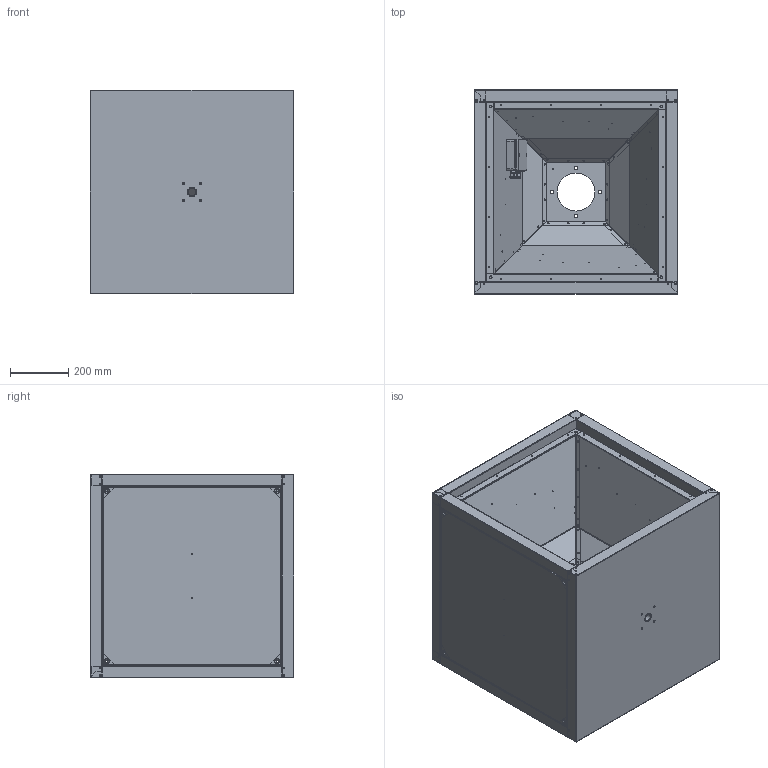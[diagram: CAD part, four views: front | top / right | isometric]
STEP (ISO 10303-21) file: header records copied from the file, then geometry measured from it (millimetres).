
FILE_DESCRIPTION (( 'STEP AP203' ), '1' );
FILE_NAME ('149327-00_MPC400ECT30_step.step', '2018-10-24T11:54:53', ( '' ), ( '' ), 'SwSTEP 2.0', 'SolidWorks 2017', '' );
FILE_SCHEMA (( 'CONFIG_CONTROL_DESIGN' ));
Length unit declared in the file: millimetre
Products named in the file (1): 149327-00_MPC400ECT30_step
Bounding box: 700 x 700.1 x 700 mm (x, y, z)
Surface area: 6879938.3 mm2 (no closed solid volume)
Topology: 0 solids, 164 shells, 751 faces, 4088 edges, 3472 vertices
Faces by surface type: cylinder 363, plane 321, torus 30, cone 29, bspline 8
Entity records: 42988 total; most frequent: CARTESIAN_POINT 10258, DIRECTION 7044, ORIENTED_EDGE 5005, EDGE_CURVE 4088, VERTEX_POINT 3472, AXIS2_PLACEMENT_3D 2417, LINE 2210, VECTOR 2210
